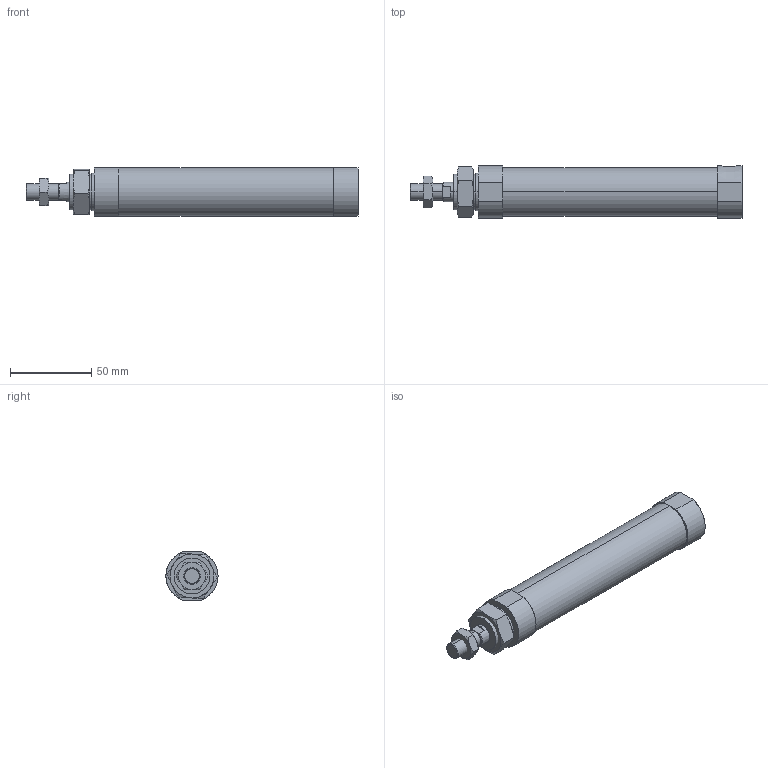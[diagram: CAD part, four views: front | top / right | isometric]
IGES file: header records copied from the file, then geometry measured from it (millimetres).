
Start section: SolidWorks IGES file using analytic representation for surfaces
Global section: file name: C:\Users\Toshiba\Desktop\JGND1-25-50-N.IGS; native system: SolidWorks 2014; preprocessor: SolidWorks 2014; author: Toshiba; date: 160804.101859; units: millimetre
Bounding box: 204 x 32 x 30 mm (x, y, z)
Surface area: 22734.8 mm2 (no closed solid volume)
Topology: 0 solids, 0 shells, 85 faces, 1510 edges, 1508 vertices
Faces by surface type: bspline 59, revolution 26
